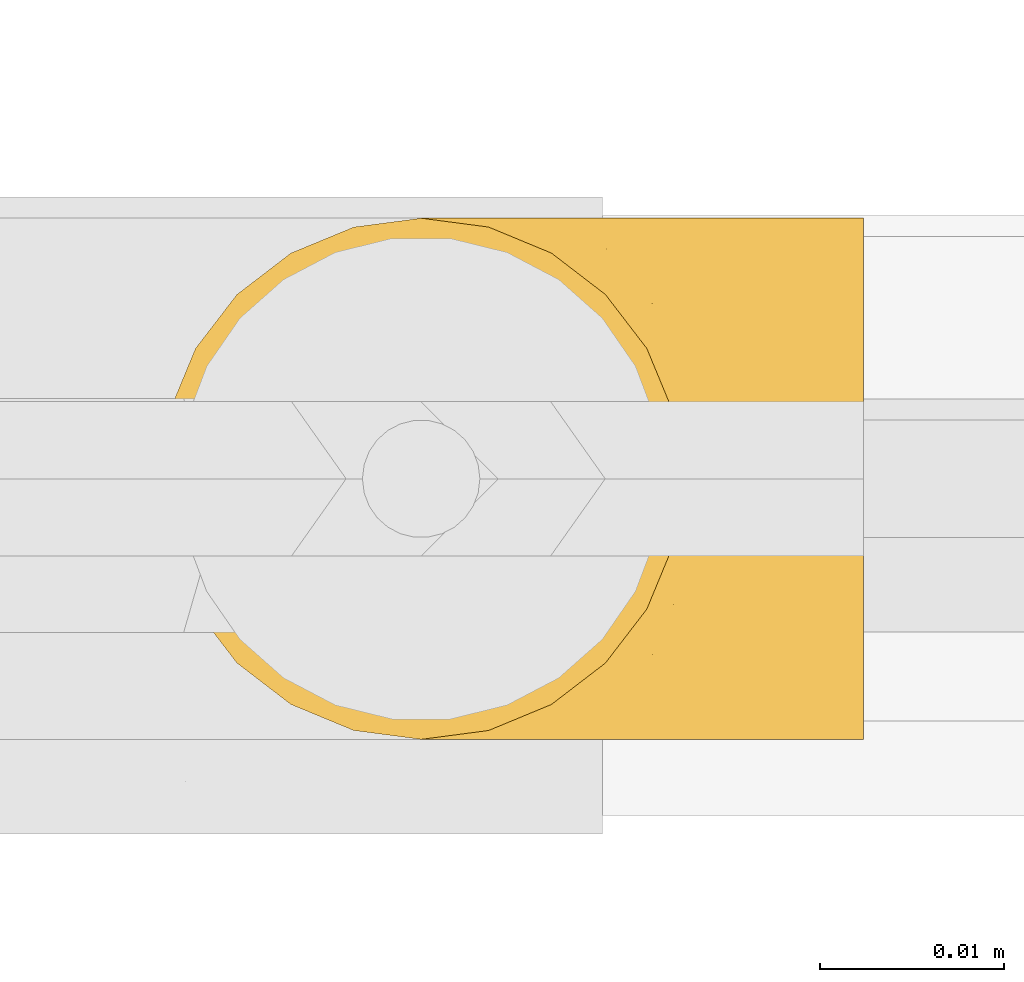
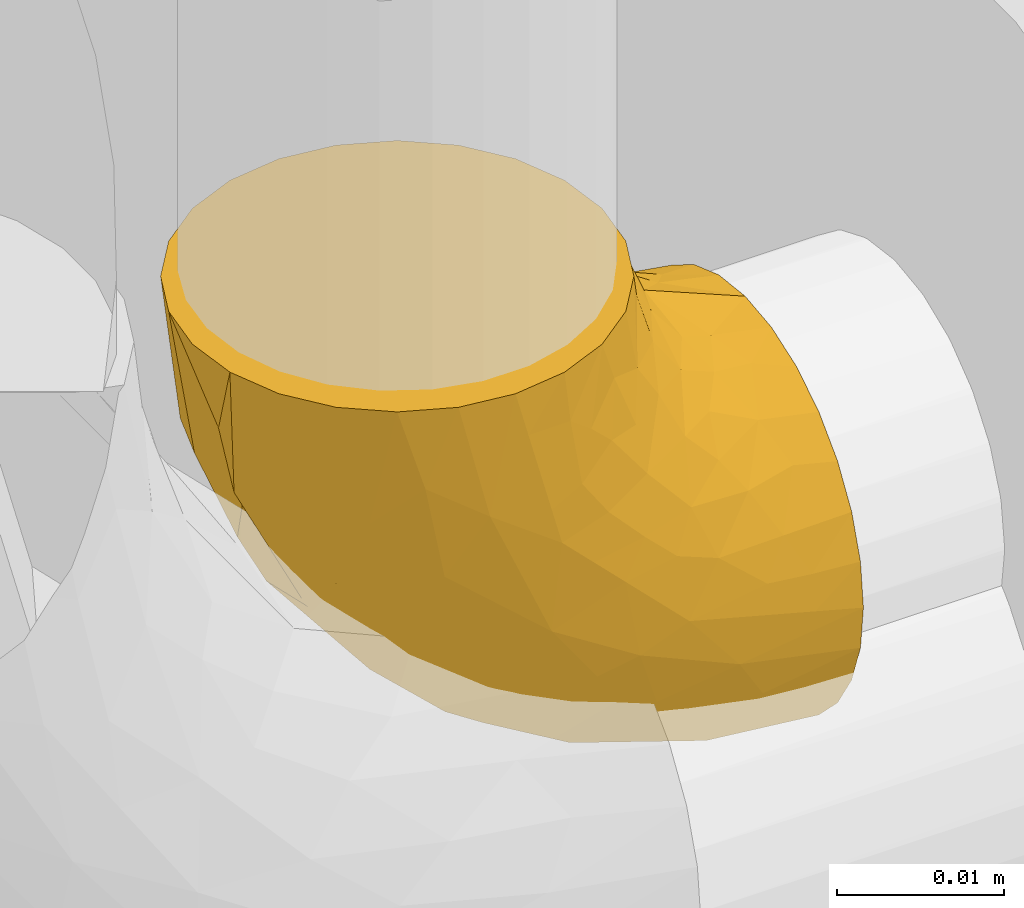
# One storey, part 12 of 30: 1 covering.
"""IFC2X3 building model written with IfcOpenShell, lengths in metres."""

from ifc_helpers import new_model, entity, si_unit, converted_unit, derived_unit, direction, frame, origin, place, context, subcontext, project, spatial, faceted_brep, material, type_object, element, save


model = new_model("IFC2X3")

# Units and contexts
model_context = context("Model", 3, precision=1e-05, world=origin(), true_north=direction((6.123031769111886e-17, 1.0)))
body_context = subcontext(model_context, "Body", "Model", "MODEL_VIEW")
ifc_project = project(units=[si_unit("LENGTHUNIT", "METRE"), si_unit("AREAUNIT", "SQUARE_METRE"), si_unit("VOLUMEUNIT", "CUBIC_METRE"), converted_unit("PLANEANGLEUNIT", "DEGREE", entity("IfcPlaneAngleMeasure", 0.017453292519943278), si_unit("PLANEANGLEUNIT", "RADIAN"), dimensions=[0, 0, 0, 0, 0, 0, 0]), si_unit("MASSUNIT", "GRAM", prefix="KILO"), derived_unit("MASSDENSITYUNIT", [(si_unit("MASSUNIT", "GRAM", prefix="KILO"), 1), (si_unit("LENGTHUNIT", "METRE"), -3)]), derived_unit("IONCONCENTRATIONUNIT", [(si_unit("MASSUNIT", "GRAM", prefix="KILO"), 1), (si_unit("LENGTHUNIT", "METRE"), -3)]), derived_unit("MOMENTOFINERTIAUNIT", [(si_unit("LENGTHUNIT", "METRE"), 4)]), si_unit("TIMEUNIT", "SECOND"), si_unit("FREQUENCYUNIT", "HERTZ"), si_unit("THERMODYNAMICTEMPERATUREUNIT", "DEGREE_CELSIUS"), derived_unit("THERMALTRANSMITTANCEUNIT", [(si_unit("MASSUNIT", "GRAM", prefix="KILO"), 1), (si_unit("THERMODYNAMICTEMPERATUREUNIT", "KELVIN"), -1), (si_unit("TIMEUNIT", "SECOND"), -3)]), derived_unit("THERMALCONDUCTANCEUNIT", [(si_unit("MASSUNIT", "GRAM", prefix="KILO"), 1), (si_unit("THERMODYNAMICTEMPERATUREUNIT", "KELVIN"), -1), (si_unit("TIMEUNIT", "SECOND"), -3), (si_unit("LENGTHUNIT", "METRE"), 1)]), derived_unit("VOLUMETRICFLOWRATEUNIT", [(si_unit("LENGTHUNIT", "METRE", prefix="DECI"), 3), (si_unit("TIMEUNIT", "SECOND"), -1)]), derived_unit("MASSFLOWRATEUNIT", [(si_unit("MASSUNIT", "GRAM", prefix="KILO"), 1), (si_unit("TIMEUNIT", "SECOND"), -1)]), derived_unit("ROTATIONALFREQUENCYUNIT", [(si_unit("TIMEUNIT", "SECOND"), -1)]), si_unit("ELECTRICCURRENTUNIT", "AMPERE"), si_unit("ELECTRICVOLTAGEUNIT", "VOLT"), si_unit("POWERUNIT", "WATT"), si_unit("FORCEUNIT", "NEWTON", prefix="KILO"), si_unit("ILLUMINANCEUNIT", "LUX"), si_unit("LUMINOUSFLUXUNIT", "LUMEN"), si_unit("LUMINOUSINTENSITYUNIT", "CANDELA"), si_unit("ENERGYUNIT", "JOULE"), derived_unit("USERDEFINED", [(si_unit("MASSUNIT", "GRAM", prefix="KILO"), -1), (si_unit("LENGTHUNIT", "METRE"), -2), (si_unit("TIMEUNIT", "SECOND"), 3), (si_unit("LUMINOUSFLUXUNIT", "LUMEN"), 1)]), derived_unit("USERDEFINED", [(si_unit("MASSUNIT", "GRAM", prefix="KILO"), 1), (si_unit("TIMEUNIT", "SECOND"), -3), (si_unit("LENGTHUNIT", "METRE"), 3), (si_unit("ELECTRICCURRENTUNIT", "AMPERE"), -2)]), derived_unit("SOUNDPOWERUNIT", [(si_unit("MASSUNIT", "GRAM", prefix="KILO"), 1), (si_unit("TIMEUNIT", "SECOND"), -3), (si_unit("LENGTHUNIT", "METRE"), 2)]), derived_unit("SOUNDPRESSUREUNIT", [(si_unit("MASSUNIT", "GRAM", prefix="KILO"), 1), (si_unit("LENGTHUNIT", "METRE"), -1), (si_unit("TIMEUNIT", "SECOND"), -2)]), derived_unit("LINEARVELOCITYUNIT", [(si_unit("LENGTHUNIT", "METRE"), 1), (si_unit("TIMEUNIT", "SECOND"), -1)]), si_unit("PRESSUREUNIT", "PASCAL"), derived_unit("USERDEFINED", [(si_unit("MASSUNIT", "GRAM", prefix="KILO"), 1), (si_unit("LENGTHUNIT", "METRE"), -2), (si_unit("TIMEUNIT", "SECOND"), -2)]), derived_unit("LINEARFORCEUNIT", [(si_unit("MASSUNIT", "GRAM", prefix="KILO"), 1), (si_unit("TIMEUNIT", "SECOND"), -2)]), derived_unit("PLANARFORCEUNIT", [(si_unit("MASSUNIT", "GRAM", prefix="KILO"), 1), (si_unit("LENGTHUNIT", "METRE"), -1), (si_unit("TIMEUNIT", "SECOND"), -2)]), derived_unit("SPECIFICHEATCAPACITYUNIT", [(si_unit("THERMODYNAMICTEMPERATUREUNIT", "KELVIN"), -1), (si_unit("LENGTHUNIT", "METRE"), 2), (si_unit("TIMEUNIT", "SECOND"), -2)]), derived_unit("HEATFLUXDENSITYUNIT", [(si_unit("MASSUNIT", "GRAM", prefix="KILO"), 1), (si_unit("TIMEUNIT", "SECOND"), -3)]), derived_unit("HEATINGVALUEUNIT", [(si_unit("LENGTHUNIT", "METRE"), 2), (si_unit("TIMEUNIT", "SECOND"), -2)]), derived_unit("VAPORPERMEABILITYUNIT", [(si_unit("LENGTHUNIT", "METRE"), -1), (si_unit("TIMEUNIT", "SECOND"), 1)]), derived_unit("DYNAMICVISCOSITYUNIT", [(si_unit("MASSUNIT", "GRAM", prefix="KILO"), 1), (si_unit("TIMEUNIT", "SECOND"), -1), (si_unit("LENGTHUNIT", "METRE"), -1)]), derived_unit("THERMALEXPANSIONCOEFFICIENTUNIT", [(si_unit("THERMODYNAMICTEMPERATUREUNIT", "KELVIN"), -1)]), derived_unit("MODULUSOFELASTICITYUNIT", [(si_unit("MASSUNIT", "GRAM", prefix="KILO"), 1), (si_unit("LENGTHUNIT", "METRE"), -1), (si_unit("TIMEUNIT", "SECOND"), -2)]), derived_unit("ISOTHERMALMOISTURECAPACITYUNIT", [(si_unit("MASSUNIT", "GRAM", prefix="KILO"), -1), (si_unit("LENGTHUNIT", "METRE"), 3)]), derived_unit("MOISTUREDIFFUSIVITYUNIT", [(si_unit("TIMEUNIT", "SECOND"), -1), (si_unit("LENGTHUNIT", "METRE"), 2)]), derived_unit("MASSPERLENGTHUNIT", [(si_unit("MASSUNIT", "GRAM", prefix="KILO"), 1), (si_unit("LENGTHUNIT", "METRE"), -1)]), derived_unit("THERMALRESISTANCEUNIT", [(si_unit("MASSUNIT", "GRAM", prefix="KILO"), -1), (si_unit("TIMEUNIT", "SECOND"), 3), (si_unit("THERMODYNAMICTEMPERATUREUNIT", "KELVIN"), 1)]), derived_unit("ACCELERATIONUNIT", [(si_unit("LENGTHUNIT", "METRE"), 1), (si_unit("TIMEUNIT", "SECOND"), -2)]), derived_unit("ANGULARVELOCITYUNIT", [(si_unit("TIMEUNIT", "SECOND"), -1), (si_unit("PLANEANGLEUNIT", "RADIAN"), 1)]), derived_unit("LINEARSTIFFNESSUNIT", [(si_unit("MASSUNIT", "GRAM", prefix="KILO"), 1), (si_unit("TIMEUNIT", "SECOND"), -2)]), derived_unit("WARPINGCONSTANTUNIT", [(si_unit("LENGTHUNIT", "METRE"), 6)]), derived_unit("LINEARMOMENTUNIT", [(si_unit("MASSUNIT", "GRAM", prefix="KILO"), 1), (si_unit("LENGTHUNIT", "METRE"), 1), (si_unit("TIMEUNIT", "SECOND"), -2)]), derived_unit("TORQUEUNIT", [(si_unit("MASSUNIT", "GRAM", prefix="KILO"), 1), (si_unit("LENGTHUNIT", "METRE"), 2), (si_unit("TIMEUNIT", "SECOND"), -2)])], contexts=[model_context])

# Site, building, storey
site_placement = place(None, origin())
site = spatial("IfcSite", under=ifc_project, at=site_placement, Name="Default", CompositionType="ELEMENT")
building_placement = place(site_placement, origin())
building = spatial("IfcBuilding", under=site, at=building_placement, CompositionType="ELEMENT")
storey_placement = place(building_placement, origin())
storey = spatial("IfcBuildingStorey", under=building, at=storey_placement, Name="Niveau 0", CompositionType="ELEMENT", Elevation=-1.949160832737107e-14)

# Covering
ifc_material = material(Name="Matériau du rendu 255-255-255")
covering_type = type_object("IfcCoveringType", Name="Isolation des canalisations:Par défaut", PredefinedType="INSULATION")
covering_placement = place(storey_placement, frame((-20.892703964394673, 1.3612578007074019, -0.37430472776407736)))
element("IfcCovering", 1, at=covering_placement, inside=storey, type_object=covering_type, material=ifc_material, Name="Isolation des canalisations:Par défaut", ObjectType="Isolation des canalisations:Par défaut", PredefinedType="INSULATION", context=body_context, shape_type="Brep", body=[
    faceted_brep([(0.03989527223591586, 0.0019516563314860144, -0.028856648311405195), (0.03989527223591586, 0.0030025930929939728, -0.03185866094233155), (0.03989527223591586, 0.00469499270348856, -0.03455099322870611), (0.03989527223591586, 0.006943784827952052, -0.03679892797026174), (0.03989527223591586, 0.009636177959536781, -0.03849001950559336), (0.03989527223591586, 0.012637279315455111, -0.03953966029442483), (0.03989527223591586, 0.01579527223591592, -0.03989527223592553), (0.03989527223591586, 0.018956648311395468, -0.03953888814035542), (0.03989527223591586, 0.02195866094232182, -0.03848795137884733), (0.03989527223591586, 0.02465099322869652, -0.03679555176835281), (0.03989527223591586, 0.02689892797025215, -0.03454675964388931), (0.03989527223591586, 0.0285900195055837, -0.03185436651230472), (0.03989527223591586, 0.029639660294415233, -0.02885326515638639), (0.03989527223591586, 0.02999527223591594, -0.025695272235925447), (0.03989527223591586, 0.029638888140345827, -0.022533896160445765), (0.03989527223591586, 0.028587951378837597, -0.01953188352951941), (0.03989527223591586, 0.02689555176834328, -0.016839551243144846), (0.03989527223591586, 0.02464675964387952, -0.014591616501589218), (0.03989527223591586, 0.02195436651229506, -0.012900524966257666), (0.03989527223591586, 0.018953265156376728, -0.011850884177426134), (0.03989527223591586, 0.01579527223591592, -0.011495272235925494), (0.03989527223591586, 0.012633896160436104, -0.011851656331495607), (0.03989527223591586, 0.009631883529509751, -0.0129025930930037), (0.03989527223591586, 0.0069395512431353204, -0.01459499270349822), (0.03989527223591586, 0.004691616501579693, -0.01684378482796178), (0.03989527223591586, 0.0030005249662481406, -0.019536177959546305), (0.03989527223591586, 0.0019508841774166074, -0.022537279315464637), (0.03989527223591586, 0.0015952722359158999, -0.025695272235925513), (0.029511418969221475, 0.019470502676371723, -0.0015952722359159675), (0.028092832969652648, 0.02289527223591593, -0.0015952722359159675), (0.025836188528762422, 0.025836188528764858, -0.0015952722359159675), (0.02289527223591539, 0.028092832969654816, -0.0015952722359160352), (0.019470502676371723, 0.029511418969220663, -0.0015952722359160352), (0.015795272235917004, 0.02999527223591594, -0.0015952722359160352), (0.012120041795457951, 0.029511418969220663, -0.0015952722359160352), (0.008695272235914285, 0.028092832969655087, -0.0015952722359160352), (0.005754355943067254, 0.025836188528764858, -0.0015952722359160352), (0.0034977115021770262, 0.02289527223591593, -0.0015952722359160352), (0.0020791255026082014, 0.019470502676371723, -0.0015952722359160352), (0.0015952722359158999, 0.01579527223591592, -0.0015952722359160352), (0.0020791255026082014, 0.012120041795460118, -0.0015952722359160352), (0.0034977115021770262, 0.00869527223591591, -0.0015952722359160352), (0.005754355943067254, 0.005754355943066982, -0.0015952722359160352), (0.008695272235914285, 0.0034977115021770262, -0.0015952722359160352), (0.012120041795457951, 0.002079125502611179, -0.0015952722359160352), (0.015795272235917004, 0.0015952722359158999, -0.0015952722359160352), (0.019470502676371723, 0.002079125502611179, -0.0015952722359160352), (0.02289527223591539, 0.0034977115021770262, -0.0015952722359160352), (0.025836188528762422, 0.005754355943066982, -0.0015952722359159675), (0.028092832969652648, 0.00869527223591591, -0.0015952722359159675), (0.029511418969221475, 0.012120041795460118, -0.0015952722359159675), (0.029995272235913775, 0.01579527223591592, -0.0015952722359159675), (0.0314669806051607, 0.001856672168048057, -0.027048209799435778), (0.0031203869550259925, 0.013423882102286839, -0.011558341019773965), (0.003411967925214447, 0.01579527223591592, -0.008375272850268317), (0.005069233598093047, 0.01579527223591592, -0.01456027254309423), (0.01188686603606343, 0.003337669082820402, -0.014682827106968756), (0.0076829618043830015, 0.0050496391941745, -0.010357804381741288), (0.010723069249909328, 0.005409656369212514, -0.018634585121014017), (0.02462580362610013, 0.0019283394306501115, -0.024053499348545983), (0.027845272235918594, 0.0015952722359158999, -0.022466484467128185), (0.030629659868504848, 0.011502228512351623, -0.03807237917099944), (0.023927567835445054, 0.009156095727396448, -0.03458658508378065), (0.02345906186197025, 0.012083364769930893, -0.03564178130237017), (0.018688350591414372, 0.002245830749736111, -0.02040811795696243), (0.023434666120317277, 0.0015952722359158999, -0.018055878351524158), (0.0070691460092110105, 0.008040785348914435, -0.016364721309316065), (0.0036578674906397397, 0.010786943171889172, -0.010797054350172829), (0.007105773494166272, 0.011666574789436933, -0.02017277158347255), (0.010332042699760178, 0.002946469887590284, -0.007491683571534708), (0.014222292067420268, 0.0019132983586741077, -0.010237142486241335), (0.012450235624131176, 0.008787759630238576, -0.025582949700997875), (0.019024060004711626, 0.0015952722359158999, -0.0136452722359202), (0.0183089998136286, 0.0015952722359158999, -0.010976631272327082), (0.017593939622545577, 0.0015952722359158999, -0.008307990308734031), (0.01740966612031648, 0.0015952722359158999, -0.0076202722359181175), (0.016694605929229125, 0.0015952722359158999, -0.004951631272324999), (0.022088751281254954, 0.002682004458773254, -0.02517535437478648), (0.0157517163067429, 0.0035716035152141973, -0.021556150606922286), (0.020432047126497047, 0.003863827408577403, -0.026742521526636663), (0.03292603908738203, 0.004162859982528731, -0.033077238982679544), (0.03055128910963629, 0.006322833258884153, -0.034991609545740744), (0.03305521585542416, 0.008616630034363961, -0.03729777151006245), (0.026930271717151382, 0.01579527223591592, -0.03642131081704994), (0.033543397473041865, 0.0026590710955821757, -0.030395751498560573), (0.026409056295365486, 0.003024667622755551, -0.02873854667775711), (0.004907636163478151, 0.007548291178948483, -0.008485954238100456), (0.03653891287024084, 0.0015952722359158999, -0.024795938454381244), (0.033870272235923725, 0.0015952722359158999, -0.024080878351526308), (0.033182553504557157, 0.0015952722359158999, -0.02389660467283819), (0.03051391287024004, 0.0015952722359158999, -0.02318154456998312), (0.024636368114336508, 0.004997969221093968, -0.031219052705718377), (0.019588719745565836, 0.007159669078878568, -0.030558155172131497), (0.03311527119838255, 0.01579527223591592, -0.03807857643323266), (0.016105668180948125, 0.005390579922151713, -0.025554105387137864), (0.013735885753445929, 0.01579527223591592, -0.027754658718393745), (0.02074527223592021, 0.01579527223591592, -0.03476404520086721), (0.016963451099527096, 0.012056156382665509, -0.03164333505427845), (0.006726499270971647, 0.01579527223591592, -0.02074527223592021), (0.011513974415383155, 0.011681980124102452, -0.026397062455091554), (0.018143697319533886, 0.009491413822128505, -0.031308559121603), (0.02122936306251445, 0.0015952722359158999, -0.015850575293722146), (0.0256399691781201, 0.0015952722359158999, -0.020261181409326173), (0.030232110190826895, 0.0022134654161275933, -0.019055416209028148), (0.0350478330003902, 0.002761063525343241, -0.01941299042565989), (0.033347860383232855, 0.004050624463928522, -0.01632414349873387), (0.020600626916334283, 0.001920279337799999, -0.010083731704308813), (0.019902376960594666, 0.002102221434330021, -0.005334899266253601), (0.02669640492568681, 0.005860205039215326, -0.006124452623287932), (0.028391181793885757, 0.006234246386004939, -0.008851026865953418), (0.029556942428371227, 0.008939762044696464, -0.006997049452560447), (0.025886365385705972, 0.003257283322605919, -0.011972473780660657), (0.02249376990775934, 0.0020017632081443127, -0.012855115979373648), (0.02503988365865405, 0.0020805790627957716, -0.015604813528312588), (0.028891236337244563, 0.009727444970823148, -0.0039905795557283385), (0.02158166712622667, 0.002533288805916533, -0.006747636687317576), (0.02403180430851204, 0.0040093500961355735, -0.004778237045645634), (0.03137801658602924, 0.012324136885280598, -0.007441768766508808), (0.03289491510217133, 0.01579527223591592, -0.00859562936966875), (0.03144509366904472, 0.01579527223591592, -0.005095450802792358), (0.03317880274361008, 0.011751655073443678, -0.00965040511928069), (0.03655214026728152, 0.0019493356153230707, -0.022275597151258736), (0.03568980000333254, 0.01261668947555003, -0.010954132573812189), (0.03423455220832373, 0.009696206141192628, -0.011348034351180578), (0.03722732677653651, 0.010446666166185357, -0.012210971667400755), (0.03578073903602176, 0.007063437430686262, -0.013823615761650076), (0.032410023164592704, 0.007124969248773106, -0.01204534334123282), (0.03143761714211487, 0.00882887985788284, -0.009717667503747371), (0.036925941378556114, 0.00493063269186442, -0.016254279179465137), (0.033404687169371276, 0.0018816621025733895, -0.02184288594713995), (0.03010341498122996, 0.01279210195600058, -0.004526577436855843), (0.036395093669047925, 0.01579527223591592, -0.01004545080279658), (0.028851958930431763, 0.0031282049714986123, -0.015405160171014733), (0.031813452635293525, 0.004981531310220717, -0.014108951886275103), (0.025603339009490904, 0.004122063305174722, -0.008820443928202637), (0.023265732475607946, 0.0029766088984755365, -0.008460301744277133), (0.02726404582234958, 0.002051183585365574, -0.01778048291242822), (0.02973434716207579, 0.005370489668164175, -0.011880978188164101), (0.03143814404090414, 0.022758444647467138, -0.009715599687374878), (0.031377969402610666, 0.019266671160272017, -0.007441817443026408), (0.033180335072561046, 0.019833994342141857, -0.009649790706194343), (0.03653891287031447, 0.02999527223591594, -0.024795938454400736), (0.02987116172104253, 0.01996442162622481, -0.004806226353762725), (0.01830899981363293, 0.02999527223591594, -0.010976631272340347), (0.02060062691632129, 0.029670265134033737, -0.010083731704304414), (0.019024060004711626, 0.02999527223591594, -0.013645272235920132), (0.02867750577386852, 0.02237447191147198, -0.004199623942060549), (0.019902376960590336, 0.029488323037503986, -0.005334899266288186), (0.016694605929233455, 0.02999527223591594, -0.004951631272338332), (0.029738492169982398, 0.026214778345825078, -0.011877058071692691), (0.028856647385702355, 0.028458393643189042, -0.015398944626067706), (0.025891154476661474, 0.02832921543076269, -0.01196616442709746), (0.02326573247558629, 0.028613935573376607, -0.00846030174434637), (0.02158166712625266, 0.029057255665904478, -0.006747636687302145), (0.024031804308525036, 0.027581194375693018, -0.004778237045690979), (0.026696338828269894, 0.025730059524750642, -0.006123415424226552), (0.028391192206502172, 0.02535501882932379, -0.008848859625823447), (0.029555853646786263, 0.02264995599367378, -0.006993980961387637), (0.03722818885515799, 0.021139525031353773, -0.012209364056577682), (0.03569117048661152, 0.01897135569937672, -0.010954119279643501), (0.03504891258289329, 0.02882716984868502, -0.019407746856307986), (0.03655023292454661, 0.02964047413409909, -0.02227202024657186), (0.035782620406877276, 0.024522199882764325, -0.013820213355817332), (0.033870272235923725, 0.02999527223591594, -0.024080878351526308), (0.03318255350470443, 0.02999527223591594, -0.023896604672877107), (0.030228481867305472, 0.029376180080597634, -0.019050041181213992), (0.03335039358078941, 0.027535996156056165, -0.016318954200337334), (0.036927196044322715, 0.02665593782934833, -0.016249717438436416), (0.03423654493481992, 0.021889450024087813, -0.011346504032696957), (0.03241284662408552, 0.024460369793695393, -0.012042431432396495), (0.025602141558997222, 0.02746794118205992, -0.008816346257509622), (0.02249765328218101, 0.029588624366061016, -0.012859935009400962), (0.030513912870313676, 0.02999527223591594, -0.023181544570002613), (0.027845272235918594, 0.02999527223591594, -0.02246648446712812), (0.03186606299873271, 0.029688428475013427, -0.02117704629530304), (0.03181664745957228, 0.026604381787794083, -0.014104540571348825), (0.027279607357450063, 0.029534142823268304, -0.017767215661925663), (0.023434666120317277, 0.02999527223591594, -0.018055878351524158), (0.02505454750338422, 0.029507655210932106, -0.015607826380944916), (0.0256399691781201, 0.02999527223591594, -0.020261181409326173), (0.02122936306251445, 0.02999527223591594, -0.015850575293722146), (0.01759393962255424, 0.02999527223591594, -0.008307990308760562), (0.01740966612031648, 0.02999527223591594, -0.0076202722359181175), (0.007682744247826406, 0.026540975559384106, -0.010356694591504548), (0.011885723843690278, 0.028253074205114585, -0.01467952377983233), (0.010723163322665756, 0.026181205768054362, -0.018634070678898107), (0.032926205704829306, 0.027430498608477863, -0.033073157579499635), (0.014222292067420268, 0.029677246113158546, -0.010237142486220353), (0.012458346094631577, 0.022802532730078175, -0.025592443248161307), (0.016963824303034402, 0.019536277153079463, -0.031642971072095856), (0.011208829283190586, 0.018853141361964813, -0.026466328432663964), (0.0195909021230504, 0.024434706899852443, -0.03055609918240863), (0.024638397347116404, 0.026595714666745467, -0.031215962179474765), (0.030551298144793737, 0.02527152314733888, -0.0349880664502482), (0.010331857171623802, 0.028644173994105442, -0.007489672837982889), (0.0036581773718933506, 0.020803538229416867, -0.010798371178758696), (0.007070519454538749, 0.023549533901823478, -0.016368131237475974), (0.007105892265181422, 0.019923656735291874, -0.02017317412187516), (0.02641062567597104, 0.028567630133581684, -0.02873529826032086), (0.019389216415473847, 0.02814677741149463, -0.024984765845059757), (0.024626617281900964, 0.029662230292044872, -0.024053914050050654), (0.03062937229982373, 0.02009200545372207, -0.03807109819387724), (0.03146839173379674, 0.029734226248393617, -0.027046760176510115), (0.004907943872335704, 0.02404213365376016, -0.008487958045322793), (0.033053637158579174, 0.02297803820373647, -0.03729500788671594), (0.023928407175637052, 0.022438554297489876, -0.03458457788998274), (0.018689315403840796, 0.02934445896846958, -0.020410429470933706), (0.015393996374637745, 0.028396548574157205, -0.02000326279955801), (0.0031203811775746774, 0.018166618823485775, -0.011558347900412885), (0.01610823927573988, 0.026203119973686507, -0.025551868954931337), (0.03354382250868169, 0.02893300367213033, -0.030392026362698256), (0.023469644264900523, 0.018862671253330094, -0.03582275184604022), (0.01814165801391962, 0.022102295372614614, -0.03130512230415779)], [[[0, 1, 2, 3, 4, 5, 6, 7, 8, 9, 10, 11, 12, 13, 14, 15, 16, 17, 18, 19, 20, 21, 22, 23, 24, 25, 26, 27]], [[28, 29, 30, 31, 32, 33, 34, 35, 36, 37, 38, 39, 40, 41, 42, 43, 44, 45, 46, 47, 48, 49, 50, 51]], [[27, 52, 0]], [[53, 54, 55]], [[56, 57, 58]], [[59, 52, 60]], [[61, 62, 63]], [[64, 59, 65]], [[66, 67, 68]], [[57, 56, 69]], [[70, 45, 44]], [[43, 42, 57]], [[66, 68, 71]], [[70, 72, 73, 74, 75, 76, 45]], [[44, 43, 69]], [[77, 78, 79]], [[80, 81, 2]], [[41, 40, 67]], [[82, 62, 61]], [[2, 81, 3]], [[63, 83, 61]], [[61, 5, 4]], [[84, 52, 85]], [[40, 39, 54]], [[58, 78, 56]], [[66, 86, 67]], [[86, 42, 41]], [[52, 27, 87, 88, 89, 90, 60]], [[91, 92, 81]], [[70, 64, 72]], [[80, 2, 1]], [[93, 5, 61]], [[1, 0, 84]], [[93, 6, 5]], [[81, 80, 91]], [[4, 82, 61]], [[54, 53, 40]], [[82, 4, 3]], [[68, 67, 53]], [[86, 57, 42]], [[58, 94, 78]], [[69, 70, 44]], [[64, 70, 56]], [[78, 64, 56]], [[85, 52, 59]], [[3, 81, 82]], [[62, 82, 81]], [[84, 80, 1]], [[91, 80, 85]], [[79, 91, 85]], [[91, 94, 92]], [[95, 96, 97]], [[94, 58, 71]], [[98, 95, 99]], [[99, 95, 97]], [[92, 62, 81]], [[92, 100, 62]], [[68, 99, 71]], [[52, 84, 0]], [[80, 84, 85]], [[67, 86, 41]], [[57, 86, 66]], [[57, 66, 58]], [[71, 58, 66]], [[64, 65, 101, 72]], [[77, 79, 85]], [[59, 60, 102, 65]], [[94, 71, 92]], [[71, 99, 100]], [[68, 53, 55]], [[98, 68, 55]], [[40, 53, 67]], [[71, 100, 92]], [[63, 100, 97]], [[57, 69, 43]], [[70, 69, 56]], [[100, 63, 62]], [[83, 93, 61]], [[79, 78, 94]], [[91, 79, 94]], [[85, 59, 77]], [[59, 64, 77]], [[78, 77, 64]], [[99, 68, 98]], [[100, 99, 97]], [[97, 96, 63]], [[83, 63, 96]], [[103, 104, 105]], [[72, 106, 73]], [[47, 46, 107]], [[107, 46, 76]], [[108, 109, 110]], [[111, 112, 113]], [[108, 110, 114]], [[47, 115, 116]], [[117, 118, 119]], [[108, 49, 48]], [[118, 117, 120]], [[25, 121, 26]], [[49, 114, 50]], [[122, 123, 124]], [[124, 125, 22]], [[126, 123, 127]], [[128, 104, 24]], [[129, 103, 60]], [[24, 104, 25]], [[27, 26, 87]], [[123, 120, 127]], [[130, 117, 119]], [[107, 76, 75, 74, 73]], [[131, 118, 122, 20]], [[105, 132, 103]], [[21, 124, 22]], [[23, 22, 125]], [[121, 87, 26]], [[126, 133, 125]], [[130, 110, 117]], [[123, 122, 120]], [[128, 24, 23]], [[50, 130, 51]], [[128, 125, 105]], [[129, 121, 104]], [[116, 108, 48]], [[134, 135, 111]], [[135, 112, 111]], [[127, 120, 117]], [[21, 20, 122]], [[125, 124, 123]], [[21, 122, 124]], [[105, 133, 132]], [[136, 103, 132]], [[111, 132, 137]], [[113, 136, 132]], [[111, 137, 109]], [[112, 106, 72]], [[118, 120, 122]], [[127, 117, 110]], [[109, 127, 110]], [[126, 127, 137]], [[133, 126, 137]], [[125, 123, 126]], [[132, 133, 137]], [[125, 133, 105]], [[125, 128, 23]], [[104, 128, 105]], [[113, 101, 65]], [[101, 113, 112]], [[102, 136, 65]], [[132, 111, 113]], [[103, 102, 60]], [[104, 121, 25]], [[121, 89, 88, 87]], [[129, 60, 90, 89]], [[121, 129, 89]], [[115, 107, 106]], [[106, 112, 135]], [[73, 106, 107]], [[106, 135, 115]], [[116, 115, 135]], [[47, 107, 115]], [[116, 135, 134]], [[47, 116, 48]], [[51, 130, 119]], [[130, 50, 114]], [[112, 72, 101]], [[108, 114, 49]], [[130, 114, 110]], [[65, 136, 113]], [[102, 103, 136]], [[46, 45, 76]], [[109, 108, 134]], [[127, 109, 137]], [[109, 134, 111]], [[116, 134, 108]], [[103, 129, 104]], [[138, 139, 140]], [[14, 13, 141]], [[119, 142, 51]], [[139, 142, 119]], [[143, 144, 145]], [[142, 146, 28]], [[147, 148, 32]], [[149, 150, 151]], [[152, 153, 154]], [[118, 139, 119]], [[155, 29, 146]], [[138, 156, 157]], [[158, 159, 19]], [[157, 139, 138]], [[18, 158, 19]], [[160, 15, 161]], [[17, 162, 18]], [[161, 141, 163, 164]], [[160, 165, 166]], [[147, 32, 31]], [[17, 16, 167]], [[168, 158, 162]], [[160, 166, 167]], [[149, 138, 169]], [[170, 156, 151]], [[151, 171, 152]], [[172, 173, 174, 164]], [[14, 161, 15]], [[155, 30, 29]], [[160, 16, 15]], [[19, 159, 20]], [[118, 131, 20, 159]], [[169, 175, 149]], [[167, 162, 17]], [[174, 165, 160]], [[156, 155, 157]], [[155, 170, 154]], [[150, 166, 165]], [[118, 159, 140]], [[142, 139, 157]], [[162, 158, 18]], [[159, 158, 168]], [[159, 168, 140]], [[176, 177, 178]], [[150, 149, 175]], [[176, 178, 150]], [[171, 145, 144]], [[165, 179, 176]], [[170, 151, 152]], [[140, 168, 138]], [[118, 140, 139]], [[169, 138, 168]], [[156, 138, 149]], [[168, 162, 169]], [[175, 162, 166]], [[162, 175, 169]], [[150, 175, 166]], [[160, 167, 16]], [[162, 167, 166]], [[178, 171, 151]], [[178, 180, 171]], [[151, 150, 178]], [[165, 173, 179]], [[176, 150, 165]], [[141, 161, 14]], [[174, 173, 165]], [[174, 161, 164]], [[152, 144, 153]], [[147, 143, 181, 182, 148]], [[147, 153, 144]], [[147, 144, 143]], [[171, 144, 152]], [[147, 31, 153]], [[154, 31, 30]], [[31, 154, 153]], [[155, 154, 30]], [[146, 142, 157]], [[142, 28, 51]], [[155, 146, 157]], [[28, 146, 29]], [[180, 178, 177]], [[180, 145, 171]], [[177, 176, 179]], [[148, 33, 32]], [[151, 156, 149]], [[154, 170, 152]], [[156, 170, 155]], [[161, 174, 160]], [[183, 184, 185]], [[10, 186, 11]], [[187, 33, 148, 182, 181, 143, 145]], [[188, 189, 190]], [[191, 192, 193]], [[34, 194, 35]], [[195, 38, 37]], [[195, 196, 197]], [[194, 183, 35]], [[54, 39, 38]], [[183, 36, 35]], [[98, 55, 197]], [[198, 199, 200]], [[8, 7, 201]], [[200, 173, 202]], [[203, 195, 37]], [[13, 12, 202]], [[36, 203, 37]], [[9, 193, 10]], [[204, 205, 193]], [[187, 206, 207]], [[193, 186, 10]], [[7, 6, 93]], [[55, 208, 197]], [[186, 192, 198]], [[201, 204, 8]], [[192, 199, 198]], [[192, 191, 209]], [[202, 173, 172, 164, 163, 141, 13]], [[7, 93, 201]], [[210, 202, 12]], [[204, 9, 8]], [[33, 187, 34]], [[11, 210, 12]], [[83, 96, 211]], [[207, 206, 199]], [[38, 195, 208]], [[207, 185, 184]], [[203, 183, 196]], [[206, 187, 145]], [[194, 187, 184]], [[206, 177, 200]], [[206, 200, 199]], [[205, 204, 201]], [[193, 9, 204]], [[192, 186, 193]], [[210, 186, 198]], [[191, 193, 205]], [[199, 192, 209]], [[196, 185, 188]], [[190, 98, 197]], [[197, 196, 188]], [[95, 189, 96]], [[211, 205, 201]], [[190, 189, 95]], [[212, 188, 191]], [[186, 210, 11]], [[202, 210, 198]], [[183, 203, 36]], [[195, 203, 196]], [[188, 185, 209]], [[196, 183, 185]], [[198, 200, 202]], [[212, 191, 205]], [[206, 145, 180, 177]], [[200, 177, 179, 173]], [[188, 209, 191]], [[38, 208, 54]], [[54, 208, 55]], [[197, 208, 195]], [[205, 189, 212]], [[188, 212, 189]], [[187, 194, 34]], [[183, 194, 184]], [[189, 211, 96]], [[201, 93, 83]], [[209, 185, 207]], [[207, 199, 209]], [[187, 207, 184]], [[98, 190, 95]], [[188, 190, 197]], [[205, 211, 189]], [[83, 211, 201]]]),
])

save(model, "model.ifc")
